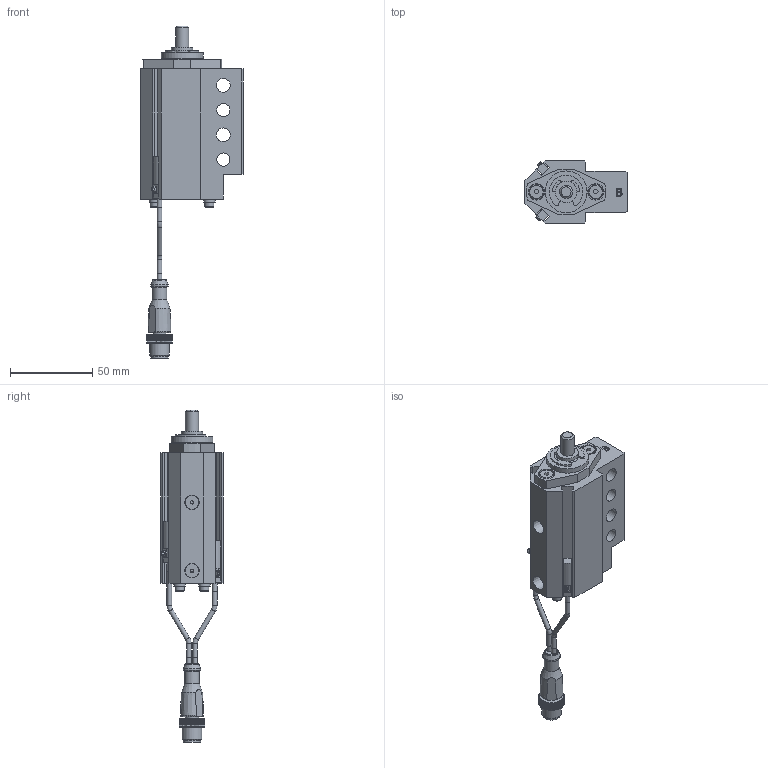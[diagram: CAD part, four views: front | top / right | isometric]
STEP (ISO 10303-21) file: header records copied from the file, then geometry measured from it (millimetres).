
FILE_DESCRIPTION(/* description */ ('NAAMS FLOATING MICRO PIN'),/* implementation_level */ '2;1');
FILE_NAME(/* name */ 'C:\Vault Workspace\CAD\Welker\Shot Pin\NMP\NMP080012EBNL3.stp',/* time_stamp */ '2021-01-28T11:36:35-05:00',/* author */ ('WELKER'),/* organization */ (''),/* preprocessor_version */ 'ST-DEVELOPER v18.1',/* originating_system */ 'Autodesk Inventor 2020',/* authorisation */ '');
FILE_SCHEMA (('AUTOMOTIVE_DESIGN { 1 0 10303 214 3 1 1 }'));
Length unit declared in the file: millimetre
Products named in the file (16): NMPL01; NMP L3 SWITCH; L3 Connector; L3 Sensor 1; L3 Sensor 2; L3 Sensor cable; L3 Sensor cable 2; M3X0.5-8 SHCS; NL3; NMPE06; NMPE03; NMPE04-DIA-LENGTH; 985432A218; NMPE01B-PORT; RMPE02; M5X5 SHOULDER
Assembly tree (22 placements, depth 3):
  NMPL01
    NMP L3 SWITCH
      L3 Connector
      L3 Sensor 1
      L3 Sensor 2
      L3 Sensor cable
      L3 Sensor cable 2
    M3X0.5-8 SHCS  x4
    NL3  x4
    NMPE06
    NMPE03
    NMPE04-DIA-LENGTH
    985432A218
    NMPE01B-PORT
    RMPE02
    M5X5 SHOULDER  x2
Bounding box: 62 x 38.1 x 201.52 mm (x, y, z)
Volume: 110454.8 mm3; surface area: 45118.2 mm2
Topology: 21 solids, 21 shells, 758 faces, 2049 edges, 1369 vertices
Faces by surface type: plane 554, cylinder 144, cone 31, bspline 16, torus 11, sphere 2
Full cylindrical faces by diameter (mm): 2 x2, 2.459 x4, 2.9 x10, 3 x5, 3.242 x2, 3.4 x4, 4 x2, 5 x6, 5.5 x4, 7 x4, 8 x3, 8.3 x2, 8.376 x2, 9 x3, 10 x3, 10.4 x1, 10.5 x1, 12 x1, 13 x3, 16 x2, 19.05 x3, 21 x1, 22.5 x1, 23.672 x1, 24 x1, 25.4 x1, 25.5 x1, 26.5 x1, 28.677 x1, 29.21 x1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
Entity records: 23171 total; most frequent: CARTESIAN_POINT 4361, ORIENTED_EDGE 3796, DIRECTION 3721, EDGE_CURVE 1898, LINE 1393, VECTOR 1393, VERTEX_POINT 1274, AXIS2_PLACEMENT_3D 1164
